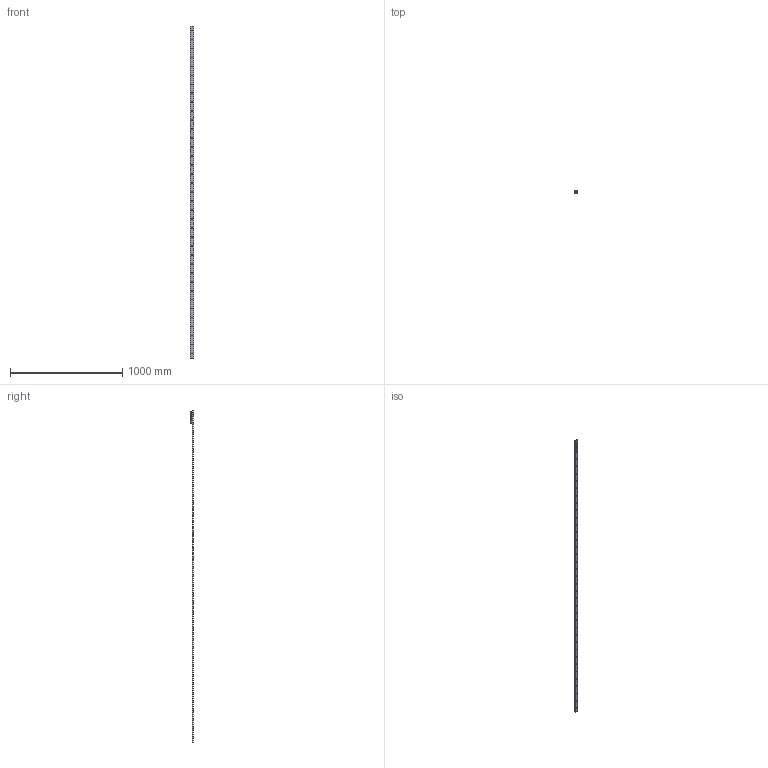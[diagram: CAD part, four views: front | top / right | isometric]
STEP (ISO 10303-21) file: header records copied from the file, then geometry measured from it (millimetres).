
FILE_DESCRIPTION( ( 'STEP AP214' ), '1' );
FILE_NAME( 'p:/temp/worker_22/temp/exporttempdir_796_311_kKezS/format_0/TGV-02960_1_RV28G-3.stp', '2020-11-20T16:42:53', ( 'License CC BY-ND 4.0' ), ( 'CADENAS' ), ' ', 'PARTsolutions', ' ' );
FILE_SCHEMA( ( 'AUTOMOTIVE_DESIGN { 1 0 10303 214 1 1 1 1 }' ) );
Length unit declared in the file: millimetre
Products named in the file (6): TGV-02960/1/RV28G-3; _TGV28-2960-(3-1); _RV28G-3-slider; _RGNV28R; _RGAV28R; _WR28G-01
Assembly tree (7 placements, depth 2):
  TGV-02960/1/RV28G-3
    _TGV28-2960-(3-1)
    _RV28G-3-slider
    _RGNV28R  x2
    _RGAV28R
    _WR28G-01  x2
Bounding box: 28 x 24 x 2960 mm (x, y, z)
Volume: 463853 mm3; surface area: 298359.3 mm2
Topology: 7 solids, 7 shells, 1086 faces, 2830 edges, 1840 vertices
Faces by surface type: plane 657, cylinder 317, cone 77, bspline 26, torus 9
Full cylindrical faces by diameter (mm): 1.27 x4, 2 x2, 2.5 x6, 4 x4, 4.134 x4, 4.2 x3, 5 x3, 5.5 x3, 5.75 x37, 7 x5, 7.5 x1, 8 x6, 10.8 x3, 17 x3, 20.75 x6
Entity records: 26641 total; most frequent: CARTESIAN_POINT 4171, DIRECTION 3570, ORIENTED_EDGE 3216, EDGE_CURVE 1608, AXIS2_PLACEMENT_3D 1390, VERTEX_POINT 1140, EDGE_LOOP 1013, FACE_OUTER_BOUND 792
